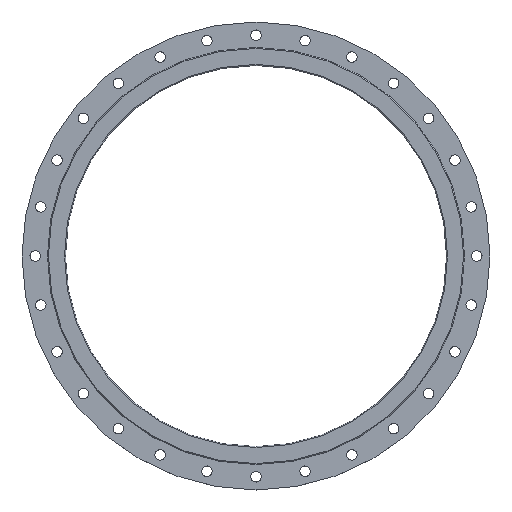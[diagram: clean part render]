
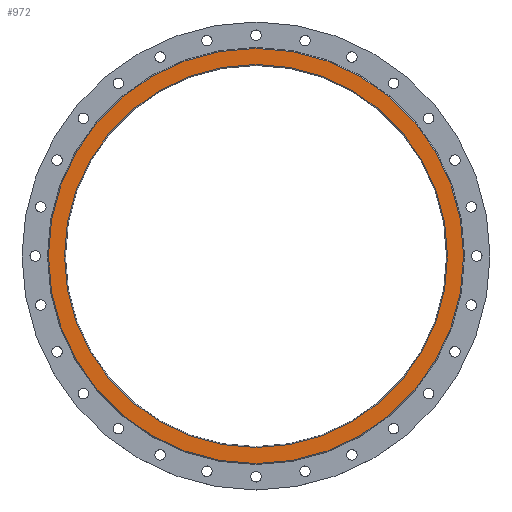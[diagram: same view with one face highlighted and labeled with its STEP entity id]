
A CAD part, top view. The second image highlights one B-rep face of the part: STEP entity #972.
In plain terms, the highlighted planar face has unit normal (0, 0, 1).
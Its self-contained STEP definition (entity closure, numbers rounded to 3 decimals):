
#49=FACE_BOUND('',#185,.T.);
#81=PLANE('',#1126);
#116=FACE_OUTER_BOUND('',#184,.T.);
#184=EDGE_LOOP('',(#849,#850));
#185=EDGE_LOOP('',(#851));
#376=CIRCLE('',#1117,652.);
#377=CIRCLE('',#1118,652.);
#378=CIRCLE('',#1120,601.6);
#481=VERTEX_POINT('',#1701);
#482=VERTEX_POINT('',#1702);
#483=VERTEX_POINT('',#1707);
#612=EDGE_CURVE('',#481,#482,#376,.T.);
#613=EDGE_CURVE('',#482,#481,#377,.T.);
#615=EDGE_CURVE('',#483,#483,#378,.T.);
#849=ORIENTED_EDGE('',*,*,#612,.T.);
#850=ORIENTED_EDGE('',*,*,#613,.T.);
#851=ORIENTED_EDGE('',*,*,#615,.F.);
#972=ADVANCED_FACE('',(#116,#49),#81,.T.);
#1117=AXIS2_PLACEMENT_3D('',#1703,#1409,#1410);
#1118=AXIS2_PLACEMENT_3D('',#1704,#1411,#1412);
#1120=AXIS2_PLACEMENT_3D('',#1708,#1416,#1417);
#1126=AXIS2_PLACEMENT_3D('',#1718,#1429,#1430);
#1409=DIRECTION('center_axis',(0.,0.,1.));
#1410=DIRECTION('ref_axis',(1.,0.,0.));
#1411=DIRECTION('center_axis',(0.,0.,1.));
#1412=DIRECTION('ref_axis',(1.,0.,0.));
#1416=DIRECTION('center_axis',(0.,0.,1.));
#1417=DIRECTION('ref_axis',(-1.,0.,0.));
#1429=DIRECTION('center_axis',(0.,0.,1.));
#1430=DIRECTION('ref_axis',(1.,0.,0.));
#1701=CARTESIAN_POINT('',(652.,0.,0.));
#1702=CARTESIAN_POINT('',(-652.,0.,0.));
#1703=CARTESIAN_POINT('Origin',(0.,0.,0.));
#1704=CARTESIAN_POINT('Origin',(0.,0.,0.));
#1707=CARTESIAN_POINT('',(601.6,0.,0.));
#1708=CARTESIAN_POINT('Origin',(0.,0.,0.));
#1718=CARTESIAN_POINT('Origin',(0.,0.,0.));
